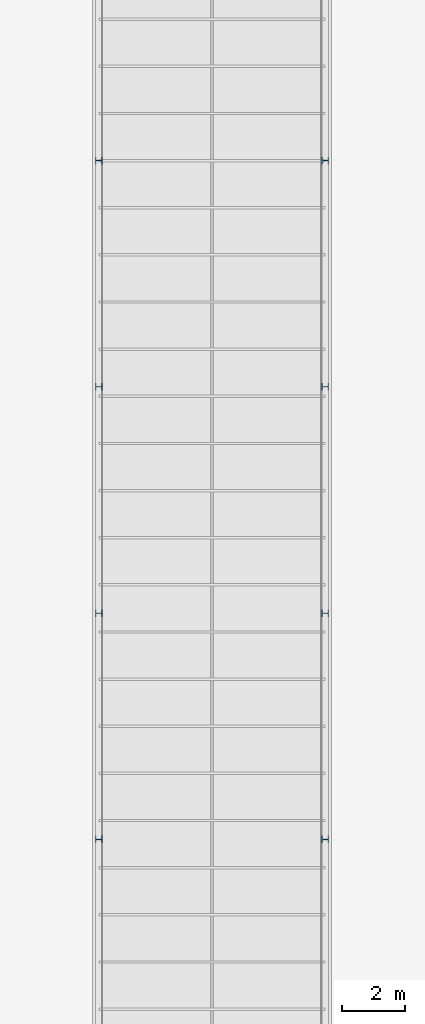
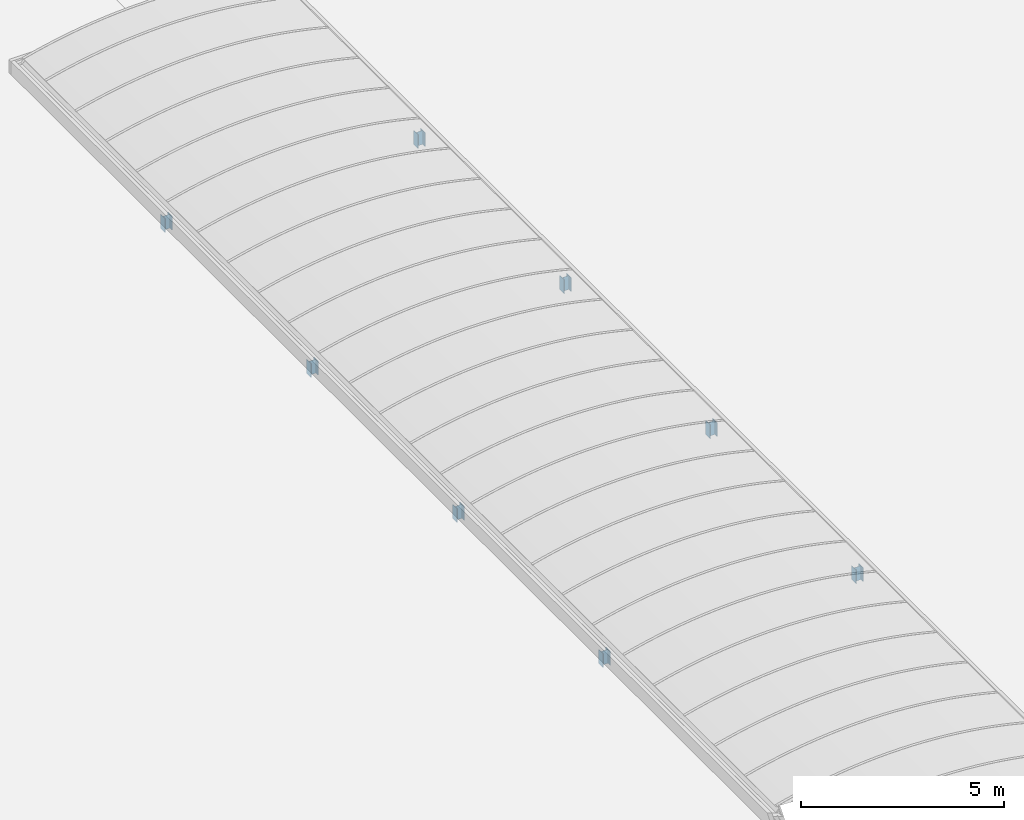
# One storey, part 22 of 81: 8 columns.
"""IFC2X3 building model written with IfcOpenShell, lengths in millimetres."""

from ifc_helpers import new_model, entity, si_unit, converted_unit, derived_unit, money_unit, direction, frame, origin_with_axes, place, context, subcontext, project, spatial, faceted_brep, material, type_object, element, save


model = new_model("IFC2X3")

# Units and contexts
model_context = context("Model", 3, precision=0.01, world=origin_with_axes(), true_north=direction((0.0, 1.0)))
body_context = subcontext(model_context, "Body", "Model", "MODEL_VIEW")
ifc_project = project(units=[si_unit("LENGTHUNIT", "METRE", prefix="MILLI"), si_unit("AREAUNIT", "SQUARE_METRE"), si_unit("VOLUMEUNIT", "CUBIC_METRE"), converted_unit("PLANEANGLEUNIT", "DEGREE", entity("IfcPlaneAngleMeasure", 0.0174532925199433), si_unit("PLANEANGLEUNIT", "RADIAN"), dimensions=[0, 0, 0, 0, 0, 0, 0]), money_unit("EUR"), converted_unit("TIMEUNIT", "Year", entity("IfcTimeMeasure", 31557600.0), si_unit("TIMEUNIT", "SECOND"), dimensions=[0, 0, 1, 0, 0, 0, 0]), si_unit("MASSUNIT", "GRAM", prefix="KILO"), si_unit("THERMODYNAMICTEMPERATUREUNIT", "DEGREE_CELSIUS"), si_unit("LUMINOUSINTENSITYUNIT", "LUMEN"), si_unit("ENERGYUNIT", "JOULE", prefix="MEGA"), derived_unit("THERMALCONDUCTANCEUNIT", [(si_unit("POWERUNIT", "WATT"), 1), (si_unit("LENGTHUNIT", "METRE"), -1), (si_unit("THERMODYNAMICTEMPERATUREUNIT", "KELVIN"), -1)]), derived_unit("SPECIFICHEATCAPACITYUNIT", [(si_unit("ENERGYUNIT", "JOULE"), 1), (si_unit("MASSUNIT", "GRAM", prefix="KILO"), -1), (si_unit("THERMODYNAMICTEMPERATUREUNIT", "KELVIN"), -1)]), derived_unit("MASSDENSITYUNIT", [(si_unit("MASSUNIT", "GRAM", prefix="KILO"), 1), (si_unit("VOLUMEUNIT", "CUBIC_METRE"), -1)])], contexts=[model_context])

# Site, building, storey
site_placement = place(None, origin_with_axes())
site = spatial("IfcSite", under=ifc_project, at=site_placement, Name="Site", CompositionType="ELEMENT")
building_placement = place(site_placement, origin_with_axes())
building = spatial("IfcBuilding", under=site, at=building_placement, Name="Naam gebouw", CompositionType="ELEMENT")
storey_placement = place(building_placement, frame((0.0, 0.0, 15320.0), z_axis=(0.0, 0.0, 1.0), x_axis=(1.0, 0.0, 0.0)))
storey = spatial("IfcBuildingStorey", under=building, at=storey_placement, Name="01 dak", CompositionType="ELEMENT", Elevation=15320.0)

# Columns
ifc_material = material(Name="Metaal - Staal C")
column_type = type_object("IfcColumnType", Name="HEA220 220 x 210", PredefinedType="COLUMN")
for number, where, z_axis, x_axis, name in (
    (1, (50500.00000000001, 58800.00000000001, -70.00000000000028), (0.0, 0.0, 1.0), (-1.0, 0.0, 0.0), "HEA220"),
    (2, (43300.00000000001, 58800.00000000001, -70.00000000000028), (0.0, 0.0, 1.0), (-1.0, 0.0, 0.0), "HEA220"),
    (3, (43300.00000000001, 66000.0, -70.00000000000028), (0.0, 0.0, 1.0), (-1.0, 0.0, 0.0), "HEA220"),
    (4, (43300.00000000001, 73200.0, -70.00000000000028), (0.0, 0.0, 1.0), (-1.0, 0.0, 0.0), "HEA220"),
    (5, (50500.00000000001, 73200.0, -70.00000000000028), (0.0, 0.0, 1.0), (-1.0, 0.0, 0.0), "HEA220"),
    (6, (43300.00000000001, 80400.0, -70.00000000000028), (0.0, 0.0, 1.0), (-1.0, 0.0, 0.0), "HEA220"),
    (7, (50500.00000000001, 66000.0, -70.00000000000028), (0.0, 0.0, 1.0), (-1.0, 0.0, 0.0), "HEA220"),
    (8, (50500.00000000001, 80400.0, -70.00000000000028), (0.0, 0.0, 1.0), (-1.0, 0.0, 0.0), "HEA220"),
):
    element("IfcColumn", number, at=place(storey_placement, frame(where, z_axis=z_axis, x_axis=x_axis)), inside=storey, type_object=column_type, material=ifc_material, Name=name, ObjectType="COLUMN", context=body_context, shape_type="Brep", body=[
        faceted_brep([(-104.9999999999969, -109.9999999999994, 419.9999999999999), (-104.9999999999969, -109.9999999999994, 0.0), (-94.0000000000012, -109.9999999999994, 0.0), (-94.0000000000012, -109.9999999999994, 419.9999999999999), (-104.9999999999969, 109.9999999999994, 419.9999999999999), (-104.9999999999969, 109.9999999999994, 0.0), (-94.0000000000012, 109.9999999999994, 0.0), (-94.0000000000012, 3.500000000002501, 0.0), (94.0000000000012, 3.500000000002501, 0.0), (94.0000000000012, 109.9999999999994, 0.0), (104.9999999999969, 109.9999999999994, 0.0), (104.9999999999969, -109.9999999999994, 0.0), (94.0000000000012, -109.9999999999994, 0.0), (94.0000000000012, -3.500000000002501, 0.0), (-94.0000000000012, -3.500000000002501, 0.0), (-94.0000000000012, -3.500000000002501, 419.9999999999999), (94.0000000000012, -3.500000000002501, 419.9999999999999), (94.0000000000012, -109.9999999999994, 419.9999999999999), (104.9999999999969, -109.9999999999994, 419.9999999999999), (104.9999999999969, 109.9999999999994, 419.9999999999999), (94.0000000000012, 109.9999999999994, 419.9999999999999), (94.0000000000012, 3.500000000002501, 419.9999999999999), (-94.0000000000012, 3.500000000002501, 419.9999999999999), (-94.0000000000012, 109.9999999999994, 419.9999999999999)], [[[0, 1, 2, 3]], [[4, 5, 1, 0]], [[2, 1, 5, 6, 7, 8, 9, 10, 11, 12, 13, 14]], [[3, 2, 14, 15]], [[4, 0, 3, 15, 16, 17, 18, 19, 20, 21, 22, 23]], [[23, 6, 5, 4]], [[22, 7, 6, 23]], [[21, 8, 7, 22]], [[20, 9, 8, 21]], [[19, 10, 9, 20]], [[18, 11, 10, 19]], [[17, 12, 11, 18]], [[16, 13, 12, 17]], [[15, 14, 13, 16]]]),
    ])

save(model, "model.ifc")
